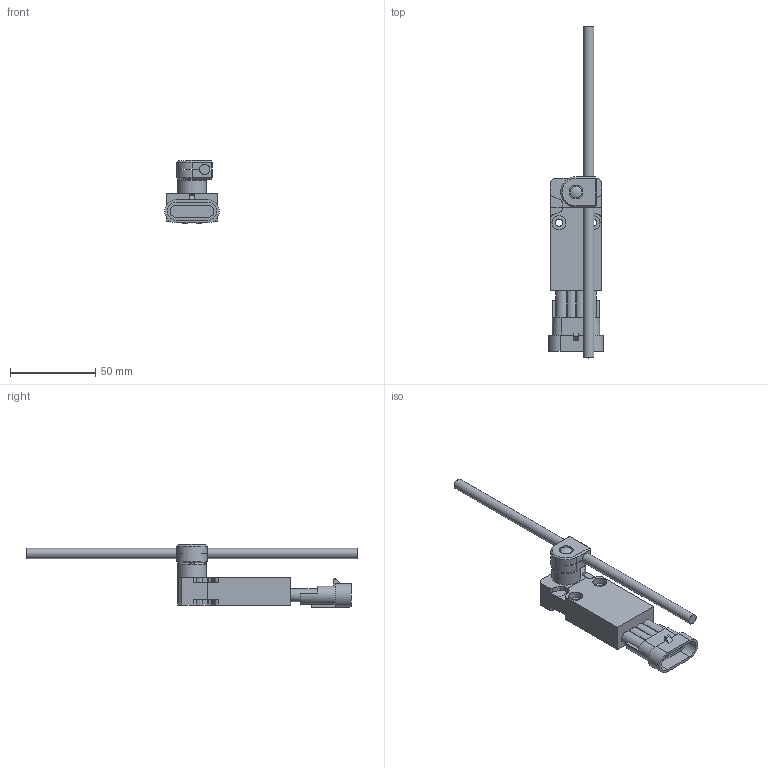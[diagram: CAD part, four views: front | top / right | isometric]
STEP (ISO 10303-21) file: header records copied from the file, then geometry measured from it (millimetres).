
FILE_DESCRIPTION(/* description */ (''),/* implementation_level */ '2;1');
FILE_NAME(/* name */ 'C:\Users\servizio.tecnico\Desktop\CADENAS\3D\EP1_STP\STP_EP1_G74A.stp',/* time_stamp */ '2017-09-04T10:50:22+02:00',/* author */ ('servizio.tecnico'),/* organization */ (''),/* preprocessor_version */ 'ST-DEVELOPER v16.1',/* originating_system */ 'Autodesk Inventor 2016',/* authorisation */ '');
FILE_SCHEMA (('AUTOMOTIVE_DESIGN { 1 0 10303 214 3 1 1 }'));
Length unit declared in the file: millimetre
Products named in the file (3): Product; EP1G74-A; BASE ASSI 
Assembly tree (2 placements, depth 3):
  BASE ASSI 
    EP1G74-A
      Product
Bounding box: 32 x 195 x 37.08 mm (x, y, z)
Volume: 45651.9 mm3; surface area: 19253.6 mm2
Topology: 4 solids, 4 shells, 183 faces, 474 edges, 310 vertices
Faces by surface type: plane 124, cylinder 55, cone 2, sphere 1, torus 1
Full cylindrical faces by diameter (mm): 4.4 x2, 6 x1, 7 x1, 8.2 x5, 11 x1, 17 x1
Entity records: 5684 total; most frequent: DIRECTION 958, CARTESIAN_POINT 956, ORIENTED_EDGE 920, EDGE_CURVE 460, LINE 338, VECTOR 338, AXIS2_PLACEMENT_3D 310, VERTEX_POINT 308
